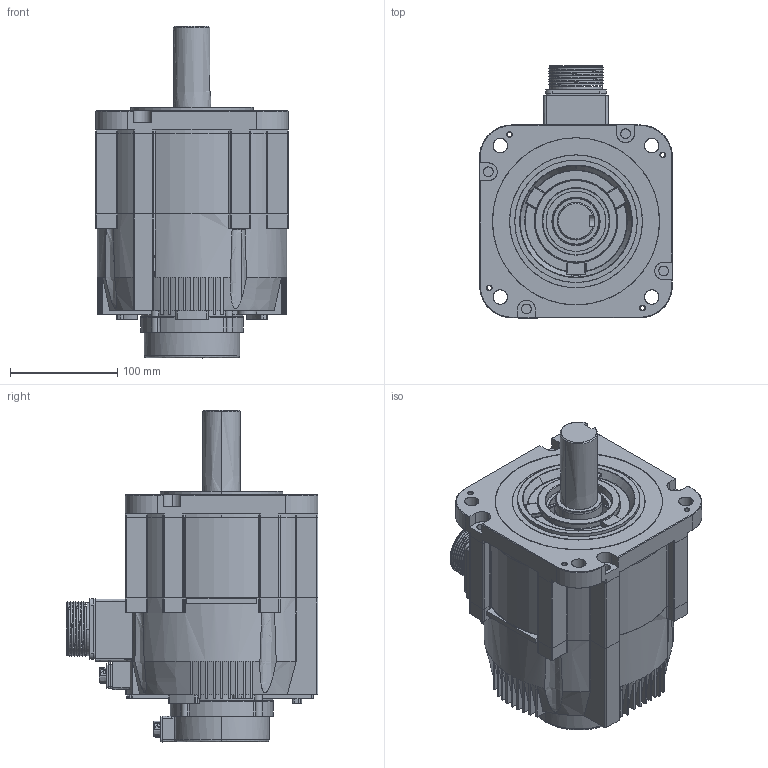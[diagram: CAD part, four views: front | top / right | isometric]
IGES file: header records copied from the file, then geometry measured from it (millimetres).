
Start section: SolidWorks IGES file using analytic representation for surfaces
Global section: file name: C:\Users\11755\Desktop\騰禾380V\外型圖\SMP系列_馬達外型圖(客戶版)\3D-IGES\SMP-H290B.IGS; native system: SolidWorks 2016; preprocessor: SolidWorks 2016; author: 11755; date: 210504.135128; units: millimetre
Bounding box: 180 x 235.3 x 310 mm (x, y, z)
Surface area: 305086 mm2 (no closed solid volume)
Topology: 0 solids, 0 shells, 983 faces, 12181 edges, 12187 vertices
Faces by surface type: revolution 516, bspline 467
